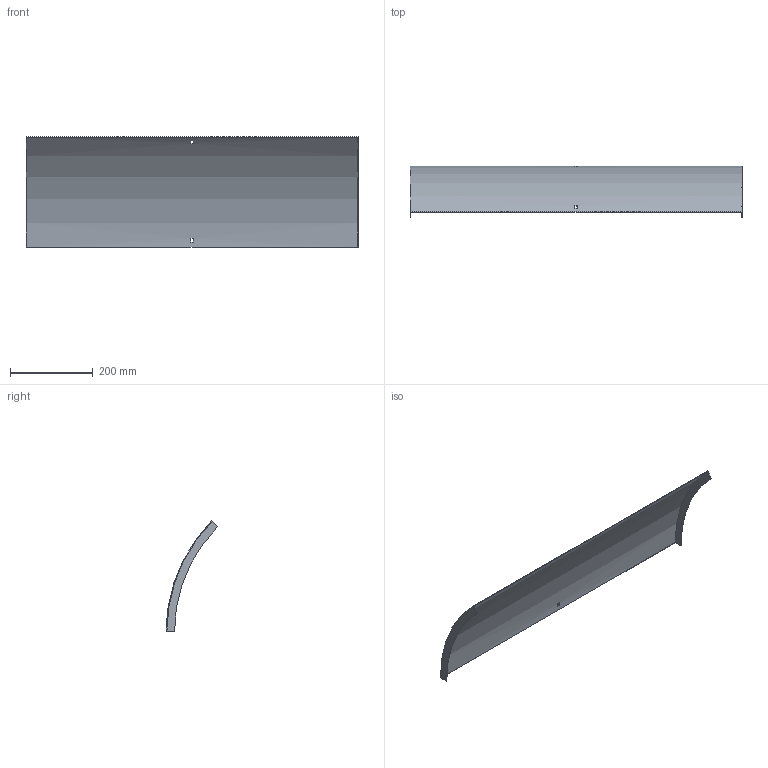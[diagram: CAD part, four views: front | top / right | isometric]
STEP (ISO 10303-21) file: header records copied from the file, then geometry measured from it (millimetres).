
FILE_DESCRIPTION (( 'STEP AP214' ), '1' );
FILE_NAME ('B2_34N3C800.step', '2025-02-21T10:36:12', ( '' ), ( '' ), 'SwSTEP 2.0', 'SolidWorks 2023', '' );
FILE_SCHEMA (( 'AUTOMOTIVE_DESIGN' ));
Length unit declared in the file: millimetre
Products named in the file (1): B2_34N3C800
Bounding box: 803 x 124.42 x 266.23 mm (x, y, z)
Volume: 371231.3 mm3; surface area: 498429.9 mm2
Topology: 1 solids, 1 shells, 18 faces, 48 edges, 32 vertices
Faces by surface type: plane 14, cylinder 4
Entity records: 599 total; most frequent: DIRECTION 102, CARTESIAN_POINT 99, ORIENTED_EDGE 96, EDGE_CURVE 48, AXIS2_PLACEMENT_3D 35, VERTEX_POINT 32, VECTOR 32, LINE 32
